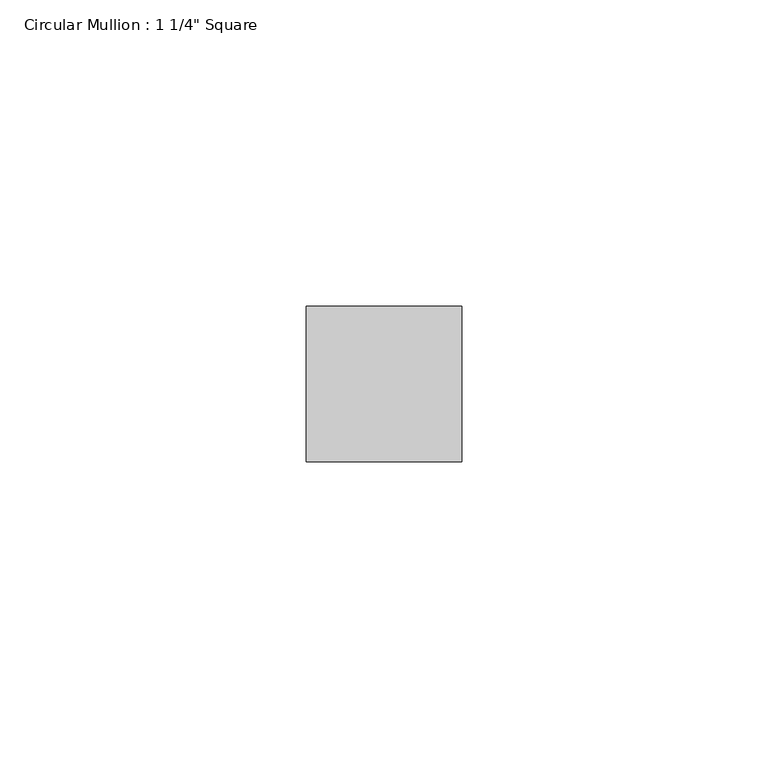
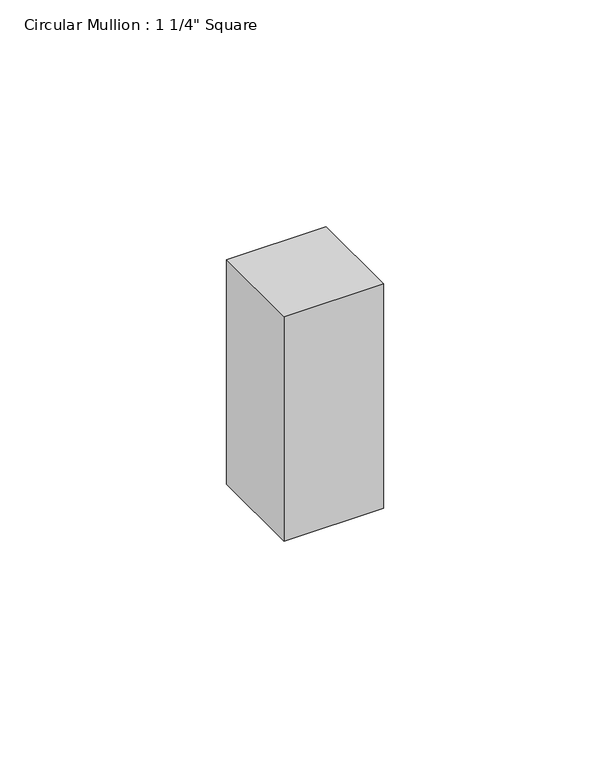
"""IFC4 building model written with IfcOpenShell, lengths in millimetres: member geometry."""

from ifc_helpers import new_model, si_unit, frame, origin, place, context, project, spatial, polyline, outline, extrude, source, transform, mapped, element, save


def member_1fa6a766(model_context):
    return source(origin(), model_context, "Body", "SweptSolid", [
        extrude(outline(polyline([(0.0, 12.7), (0.0, -12.7), (-25.4, -12.7), (-25.4, 12.7), (0.0, 12.7)])), frame((0.0, 0.0, -60.4899539), z_axis=(0.0, 0.0, 1.0), x_axis=(1.0, 0.0, 0.0)), (0.0, 0.0, 1.0), 60.4899539),
    ])


if __name__ == "__main__":
    model = new_model("IFC4")
    model_context = context("Model", 3, world=origin())
    ifc_project = project(units=[si_unit("LENGTHUNIT", "METRE", prefix="MILLI")], contexts=[model_context])
    site = spatial("IfcSite", under=ifc_project)
    building = spatial("IfcBuilding", under=site)
    placement = place(None, origin())
    member_shape = member_1fa6a766(model_context)
    element("IfcMember", 1, ObjectType="Circular Mullion : 1 1/4\" Square", at=placement, inside=building, context=model_context, shape_type="MappedRepresentation", body=[
        mapped(member_shape, transform((0.0, 0.0, 0.0), x_axis=(1.0, 0.0, 0.0), y_axis=(0.0, 1.0, 0.0), z_axis=(0.0, 0.0, 1.0))),
    ])
    save(model, "model.ifc")
